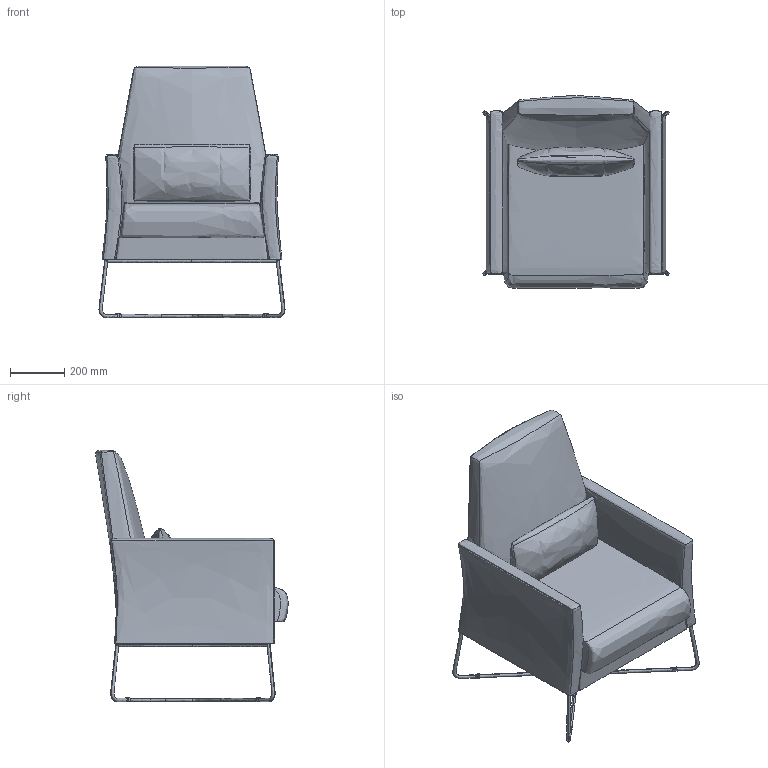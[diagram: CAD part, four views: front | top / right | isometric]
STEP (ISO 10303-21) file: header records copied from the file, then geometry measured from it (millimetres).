
FILE_DESCRIPTION(/* description */ (''),/* implementation_level */ '2;1');
FILE_NAME(/* name */ 'kinoshita_abord_s009',/* time_stamp */ '2024-10-01T14:17:22+09:00',/* author */ (''),/* organization */ (''),/* preprocessor_version */ 'ST-DEVELOPER v16.5',/* originating_system */ '',/* authorisation */ '');
FILE_SCHEMA (('AUTOMOTIVE_DESIGN'));
Length unit declared in the file: millimetre
Products named in the file (1): Document
Bounding box: 685.88 x 709.34 x 928.86 mm (x, y, z)
Volume: 125727623.3 mm3; surface area: 2668520.9 mm2
Topology: 1 solids, 1 shells, 248 faces, 1236 edges, 1202 vertices
Faces by surface type: bspline 184, plane 64
Entity records: 44273 total; most frequent: CARTESIAN_POINT 41000, COMPOSITE_CURVE_SEGMENT 1144, B_SPLINE_CURVE_WITH_KNOTS 900, CURVE_BOUNDED_SURFACE 210, OUTER_BOUNDARY_CURVE 210, ORIENTED_EDGE 208, EDGE_CURVE 104, B_SPLINE_SURFACE_WITH_KNOTS 73
